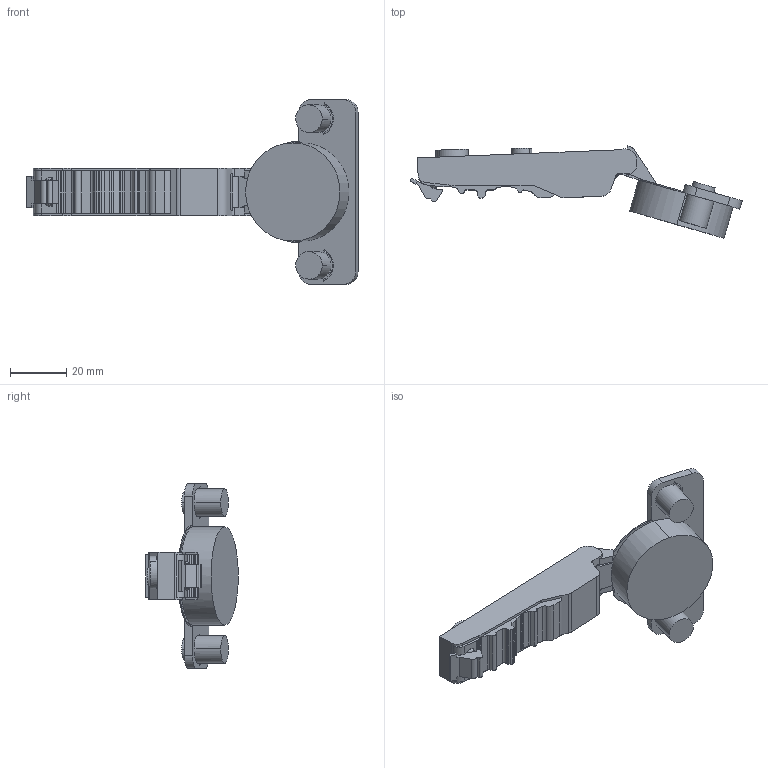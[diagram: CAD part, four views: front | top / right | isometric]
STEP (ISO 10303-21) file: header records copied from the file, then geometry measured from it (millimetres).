
FILE_DESCRIPTION (( 'STEP AP203' ), '1' );
FILE_NAME ('C82A677T0FA-DTC 3D open.STEP', '2024-07-10T09:07:48', ( '微软用户' ), ( '微软中国' ), 'SwSTEP 2.0', 'SolidWorks 2021', '' );
FILE_SCHEMA (( 'CONFIG_CONTROL_DESIGN' ));
Length unit declared in the file: millimetre
Products named in the file (1): C82A677T0FA-DTC 3D open
Bounding box: 117.71 x 32.77 x 65.56 mm (x, y, z)
Volume: 34935.1 mm3; surface area: 12153.6 mm2
Topology: 1 solids, 5 shells, 391 faces, 1083 edges, 702 vertices
Faces by surface type: cylinder 165, plane 154, torus 54, bspline 14, cone 4
Entity records: 13176 total; most frequent: CARTESIAN_POINT 3069, ORIENTED_EDGE 2166, DIRECTION 2121, EDGE_CURVE 1083, AXIS2_PLACEMENT_3D 791, VERTEX_POINT 702, LINE 539, VECTOR 539
